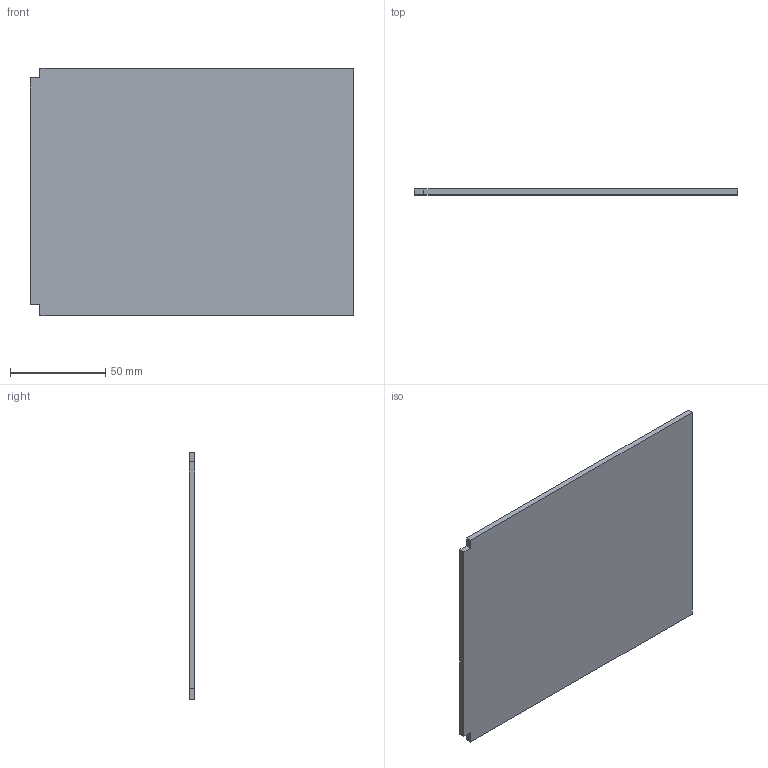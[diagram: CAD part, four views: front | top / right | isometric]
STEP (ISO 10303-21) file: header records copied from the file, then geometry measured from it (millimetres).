
FILE_DESCRIPTION(/* description */ (''),/* implementation_level */ '2;1');
FILE_NAME(/* name */ '1.frame-bottom#1.6#la-pan-4',/* time_stamp */ '2014-12-01T20:11:27+01:00',/* author */ (''),/* organization */ (''),/* preprocessor_version */ 'ST-DEVELOPER v14',/* originating_system */ '',/* authorisation */ '');
FILE_SCHEMA (('AUTOMOTIVE_DESIGN'));
Length unit declared in the file: millimetre
Products named in the file (1): Document
Bounding box: 170 x 3 x 130 mm (x, y, z)
Volume: 66135 mm3; surface area: 45890 mm2
Topology: 1 solids, 1 shells, 10 faces, 24 edges, 16 vertices
Faces by surface type: plane 10
Entity records: 546 total; most frequent: CARTESIAN_POINT 172, B_SPLINE_CURVE_WITH_KNOTS 72, ORIENTED_EDGE 48, PCURVE 48, DEFINITIONAL_REPRESENTATION 48, SURFACE_CURVE 24, EDGE_CURVE 24, VERTEX_POINT 16
